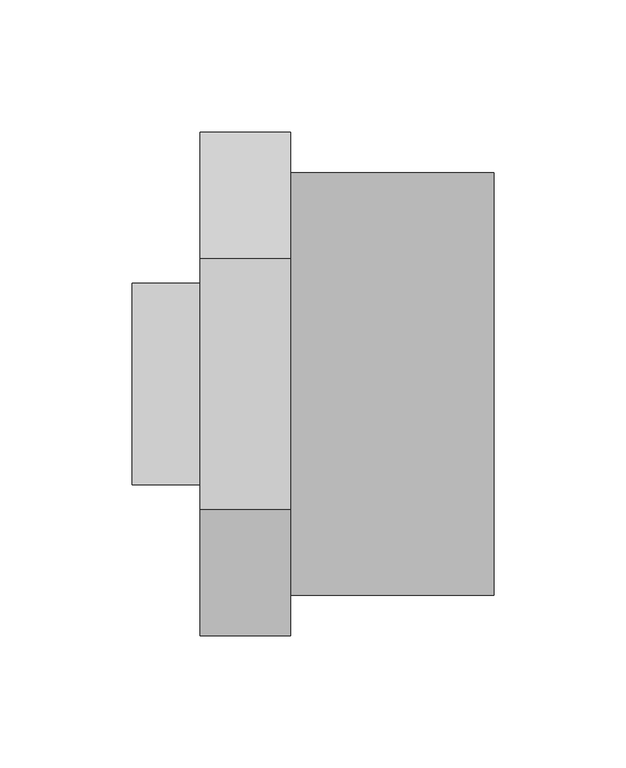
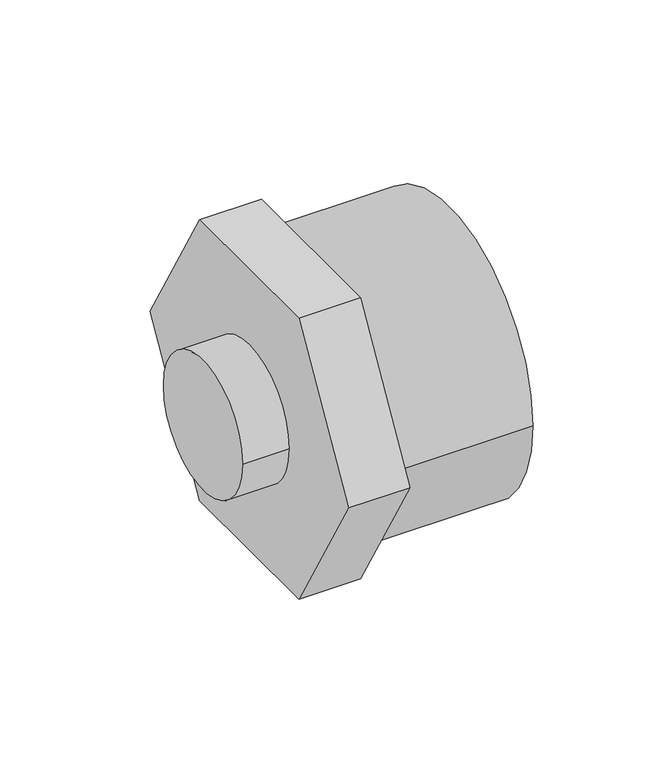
"""IFC4 building model written with IfcOpenShell, lengths in millimetres: pipe fitting geometry, 01101081 : Mamelons de réduction multiple FxMxM."""

from ifc_helpers import new_model, si_unit, point, frame, origin, origin_2d, place, context, project, spatial, polyline, circle_curve, trimmed, segment, composite_curve, outline, extrude, source, transform, mapped, element, save


def pipe_fitting_8b40f217(model_context):
    return source(origin(), model_context, "Body", "SweptSolid", [
        extrude(outline(composite_curve([segment(trimmed(circle_curve(origin_2d(), 38.1), [point((38.1, 0.0))], [point((-38.1, 0.0))], False, "CARTESIAN"), True, "CONTINUOUS"), segment(trimmed(circle_curve(origin_2d(), 38.1), [point((-38.1, 0.0))], [point((38.1, 0.0))], False, "CARTESIAN"), True, "CONTINUOUS")], self_intersect=False)), frame((0.0, 0.0, 0.0), z_axis=(1.0, 0.0, 0.0), x_axis=(0.0, 1.0, 0.0)), (0.0, 0.0, 1.0), 25.75),
        extrude(outline(polyline([(-47.6313972, 82.5), (47.6313972, 82.5), (95.2627944, 0.0), (47.6313972, -82.5), (-47.6313972, -82.5), (-95.2627944, 0.0), (-47.6313972, 82.5)])), frame((25.75, 0.0, 0.0), z_axis=(1.0, 0.0, 0.0), x_axis=(0.0, 1.0, 0.0)), (0.0, 0.0, 1.0), 34.25),
        extrude(outline(composite_curve([segment(trimmed(circle_curve(origin_2d(), 80.0), [point((-80.0, 0.0))], [point((80.0, 0.0))], False, "CARTESIAN"), True, "CONTINUOUS"), segment(trimmed(circle_curve(origin_2d(), 80.0), [point((80.0, 0.0))], [point((-80.0, 0.0))], False, "CARTESIAN"), True, "CONTINUOUS")], self_intersect=False)), frame((60.0, 0.0, 0.0), z_axis=(1.0, 0.0, 0.0), x_axis=(0.0, 1.0, 0.0)), (0.0, 0.0, 1.0), 77.0),
    ])


if __name__ == "__main__":
    model = new_model("IFC4")
    model_context = context("Model", 3, world=origin())
    ifc_project = project(units=[si_unit("LENGTHUNIT", "METRE", prefix="MILLI")], contexts=[model_context])
    site = spatial("IfcSite", under=ifc_project)
    building = spatial("IfcBuilding", under=site)
    placement = place(None, origin())
    pipe_fitting_shape = pipe_fitting_8b40f217(model_context)
    element("IfcPipeFitting", 1, ObjectType="01101081 : Mamelons de réduction multiple FxMxM", at=placement, inside=building, context=model_context, shape_type="MappedRepresentation", body=[
        mapped(pipe_fitting_shape, transform((0.0, 0.0, 0.0), x_axis=(1.0, 0.0, 0.0), y_axis=(0.0, 1.0, 0.0), z_axis=(0.0, 0.0, 1.0))),
    ])
    save(model, "model.ifc")
